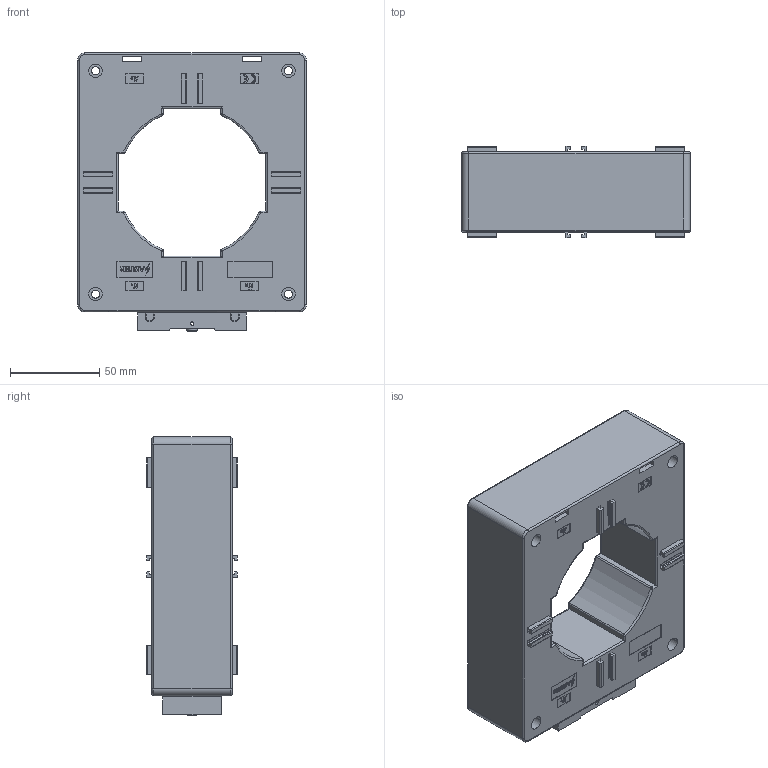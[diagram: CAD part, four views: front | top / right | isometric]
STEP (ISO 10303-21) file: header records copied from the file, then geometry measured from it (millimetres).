
FILE_DESCRIPTION (( 'STEP AP203' ), '1' );
FILE_NAME ('TT-B80.STEP', '2016-12-19T10:05:56', ( '' ), ( '' ), 'SwSTEP 2.0', 'SolidWorks 2015', '' );
FILE_SCHEMA (( 'CONFIG_CONTROL_DESIGN' ));
Length unit declared in the file: millimetre
Products named in the file (1): TT-B80
Bounding box: 128 x 50.9 x 155.7 mm (x, y, z)
Volume: 589136.4 mm3; surface area: 84696.7 mm2
Topology: 2 solids, 2 shells, 1443 faces, 3718 edges, 2366 vertices
Faces by surface type: plane 839, cylinder 289, bspline 255, cone 28, torus 16, sphere 16
Entity records: 51749 total; most frequent: CARTESIAN_POINT 18413, ORIENTED_EDGE 7404, DIRECTION 5856, EDGE_CURVE 3702, VECTOR 2546, LINE 2546, VERTEX_POINT 2366, AXIS2_PLACEMENT_3D 1655
